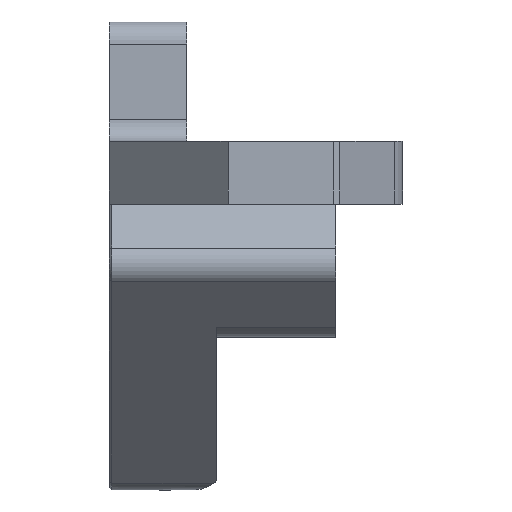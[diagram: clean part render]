
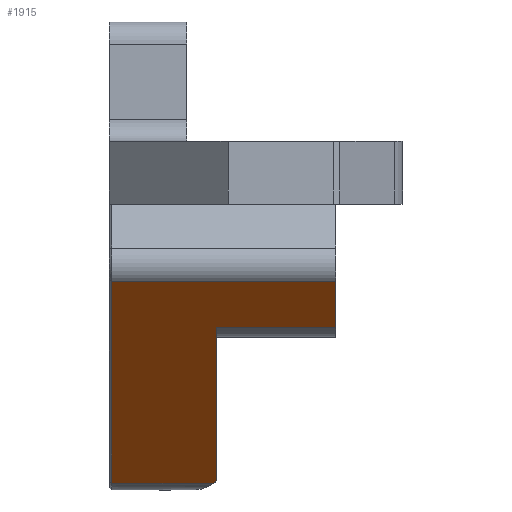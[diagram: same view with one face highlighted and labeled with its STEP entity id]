
A CAD part, left-side view. The second image highlights one B-rep face of the part: STEP entity #1915.
In plain terms, the highlighted planar face has unit normal (-0.707, 0, -0.707).
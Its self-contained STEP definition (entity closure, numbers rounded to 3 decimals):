
#24=ELLIPSE('',#2011,16.546,11.7);
#82=PLANE('',#2067);
#212=LINE('',#3766,#371);
#220=LINE('',#3784,#379);
#221=LINE('',#3789,#380);
#222=LINE('',#3790,#381);
#223=LINE('',#3791,#382);
#224=LINE('',#3792,#383);
#371=VECTOR('',#2453,10.);
#379=VECTOR('',#2471,10.);
#380=VECTOR('',#2476,10.);
#381=VECTOR('',#2477,10.);
#382=VECTOR('',#2478,10.);
#383=VECTOR('',#2479,10.);
#590=FACE_OUTER_BOUND('',#708,.T.);
#708=EDGE_LOOP('',(#1661,#1662,#1663,#1664,#1665,#1666,#1667));
#922=VERTEX_POINT('',#3622);
#923=VERTEX_POINT('',#3624);
#958=VERTEX_POINT('',#3761);
#959=VERTEX_POINT('',#3765);
#964=VERTEX_POINT('',#3783);
#965=VERTEX_POINT('',#3787);
#966=VERTEX_POINT('',#3788);
#1147=EDGE_CURVE('',#923,#922,#24,.T.);
#1208=EDGE_CURVE('',#958,#959,#212,.T.);
#1217=EDGE_CURVE('',#959,#964,#220,.T.);
#1219=EDGE_CURVE('',#965,#966,#221,.T.);
#1220=EDGE_CURVE('',#964,#965,#222,.T.);
#1221=EDGE_CURVE('',#923,#958,#223,.T.);
#1222=EDGE_CURVE('',#922,#966,#224,.T.);
#1661=ORIENTED_EDGE('',*,*,#1219,.F.);
#1662=ORIENTED_EDGE('',*,*,#1220,.F.);
#1663=ORIENTED_EDGE('',*,*,#1217,.F.);
#1664=ORIENTED_EDGE('',*,*,#1208,.F.);
#1665=ORIENTED_EDGE('',*,*,#1221,.F.);
#1666=ORIENTED_EDGE('',*,*,#1147,.T.);
#1667=ORIENTED_EDGE('',*,*,#1222,.T.);
#1915=ADVANCED_FACE('',(#590),#82,.T.);
#2011=AXIS2_PLACEMENT_3D('',#3625,#2318,#2319);
#2067=AXIS2_PLACEMENT_3D('',#3786,#2474,#2475);
#2318=DIRECTION('center_axis',(0.707,0.,0.707));
#2319=DIRECTION('ref_axis',(0.707,0.,-0.707));
#2453=DIRECTION('',(-0.707,0.,0.707));
#2471=DIRECTION('',(0.,-1.,0.));
#2474=DIRECTION('center_axis',(-0.707,0.,
-0.707));
#2475=DIRECTION('ref_axis',(0.707,0.,-0.707));
#2476=DIRECTION('',(0.,1.,0.));
#2477=DIRECTION('',(0.707,0.,-0.707));
#2478=DIRECTION('',(0.,1.,0.));
#2479=DIRECTION('',(-0.707,0.,0.707));
#3622=CARTESIAN_POINT('',(22.698,42.458,-1.687));
#3624=CARTESIAN_POINT('',(22.898,42.745,-1.887));
#3625=CARTESIAN_POINT('Origin',(32.397,35.913,-11.385));
#3761=CARTESIAN_POINT('',(22.898,52.008,-1.887));
#3765=CARTESIAN_POINT('',(4.55,52.008,16.462));
#3766=CARTESIAN_POINT('',(10.867,52.008,10.145));
#3783=CARTESIAN_POINT('',(4.55,31.62,16.462));
#3784=CARTESIAN_POINT('',(4.55,40.858,16.462));
#3786=CARTESIAN_POINT('Origin',(4.55,51.908,16.462));
#3787=CARTESIAN_POINT('',(8.775,31.62,12.237));
#3788=CARTESIAN_POINT('',(8.775,42.458,12.237));
#3789=CARTESIAN_POINT('',(8.775,46.636,12.237));
#3790=CARTESIAN_POINT('',(10.867,31.62,10.145));
#3791=CARTESIAN_POINT('',(22.898,50.261,-1.887));
#3792=CARTESIAN_POINT('',(6.651,42.458,14.36));
